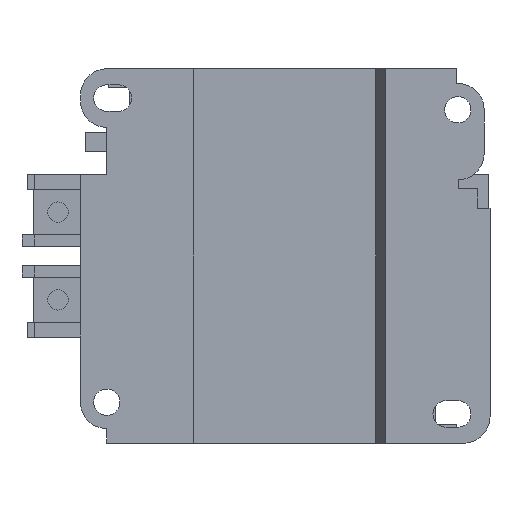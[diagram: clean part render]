
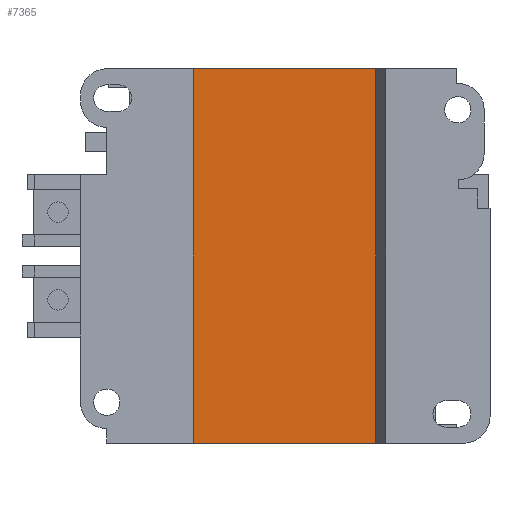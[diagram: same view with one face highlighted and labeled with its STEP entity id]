
A CAD part, left-side view. The second image highlights one B-rep face of the part: STEP entity #7365.
In plain terms, the highlighted planar face has unit normal (-1, 0, 0).
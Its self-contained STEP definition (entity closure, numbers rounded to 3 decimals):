
#2638 = DIRECTION ( 'NONE',  ( 0., 0., 1. ) ) ;
#2639 = VECTOR ( 'NONE', #2638, 1000. ) ;
#2640 = CARTESIAN_POINT ( 'NONE',  ( -69.1, -17.7, -32. ) ) ;
#2641 = LINE ( 'NONE', #2640, #2639 ) ;
#4379 = DIRECTION ( 'NONE',  ( 0., 0., -1. ) ) ;
#4380 = DIRECTION ( 'NONE',  ( 1., 0., 0. ) ) ;
#4381 = CARTESIAN_POINT ( 'NONE',  ( -69.1, 17.7, -32. ) ) ;
#4382 = AXIS2_PLACEMENT_3D ( 'NONE', #4381, #4380, #4379 ) ;
#4383 = PLANE ( 'NONE',  #4382 ) ;
#4384 = FACE_OUTER_BOUND ( 'NONE', #7563, .T. ) ;
#4391 = DIRECTION ( 'NONE',  ( 0., 0., 1. ) ) ;
#4392 = VECTOR ( 'NONE', #4391, 1000. ) ;
#4393 = CARTESIAN_POINT ( 'NONE',  ( -69.1, 17.7, -32. ) ) ;
#4394 = LINE ( 'NONE', #4393, #4392 ) ;
#6839 = EDGE_CURVE ( 'NONE', #6891, #6840, #16818, .T. ) ;
#6840 = VERTEX_POINT ( 'NONE', #16798 ) ;
#6891 = VERTEX_POINT ( 'NONE', #17081 ) ;
#6957 = EDGE_CURVE ( 'NONE', #6958, #7040, #17220, .T. ) ;
#6958 = VERTEX_POINT ( 'NONE', #17260 ) ;
#7040 = VERTEX_POINT ( 'NONE', #17348 ) ;
#7360 = EDGE_CURVE ( 'NONE', #6840, #7040, #4394, .T. ) ;
#7365 = ADVANCED_FACE ( 'NONE', ( #4384 ), #4383, .F. ) ;
#7423 = ORIENTED_EDGE ( 'NONE', *, *, #6839, .F. ) ;
#7561 = ORIENTED_EDGE ( 'NONE', *, *, #6957, .T. ) ;
#7562 = ORIENTED_EDGE ( 'NONE', *, *, #7564, .T. ) ;
#7563 = EDGE_LOOP ( 'NONE', ( #7562, #7561, #7565, #7423 ) ) ;
#7564 = EDGE_CURVE ( 'NONE', #6891, #6958, #2641, .T. ) ;
#7565 = ORIENTED_EDGE ( 'NONE', *, *, #7360, .F. ) ;
#16798 = CARTESIAN_POINT ( 'NONE',  ( -69.1, 17.7, -32. ) ) ;
#16799 = DIRECTION ( 'NONE',  ( 0., 1., 0. ) ) ;
#16800 = VECTOR ( 'NONE', #16799, 1000. ) ;
#16801 = CARTESIAN_POINT ( 'NONE',  ( -69.1, 0., -32. ) ) ;
#16818 = LINE ( 'NONE', #16801, #16800 ) ;
#17081 = CARTESIAN_POINT ( 'NONE',  ( -69.1, -17.7, -32. ) ) ;
#17220 = LINE ( 'NONE', #17263, #17262 ) ;
#17260 = CARTESIAN_POINT ( 'NONE',  ( -69.1, -17.7, 32. ) ) ;
#17261 = DIRECTION ( 'NONE',  ( 0., 1., 0. ) ) ;
#17262 = VECTOR ( 'NONE', #17261, 1000. ) ;
#17263 = CARTESIAN_POINT ( 'NONE',  ( -69.1, 0., 32. ) ) ;
#17348 = CARTESIAN_POINT ( 'NONE',  ( -69.1, 17.7, 32. ) ) ;
